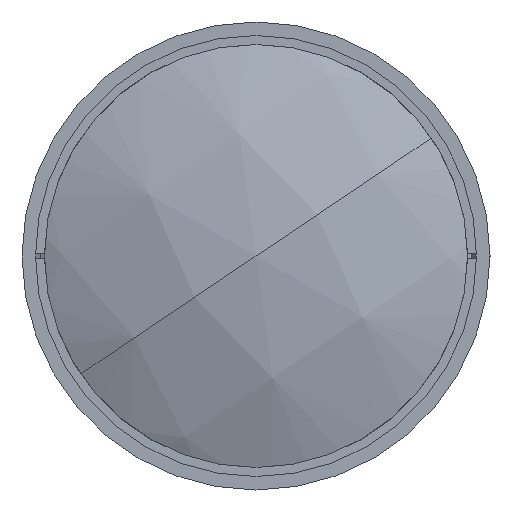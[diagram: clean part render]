
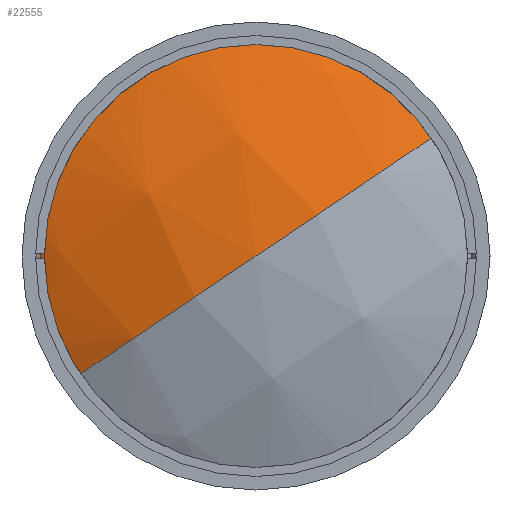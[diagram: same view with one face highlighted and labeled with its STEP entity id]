
A CAD part, left-side view. The second image highlights one B-rep face of the part: STEP entity #22555.
In plain terms, the highlighted spherical face has radius 114.92 mm.
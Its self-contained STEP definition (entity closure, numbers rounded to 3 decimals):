
#2043 = DIRECTION ( 'NONE',  ( 0., 0.558, 0.83 ) ) ;
#3655 = ORIENTED_EDGE ( 'NONE', *, *, #31165, .T. ) ;
#4973 = DIRECTION ( 'NONE',  ( 0., 0.558, 0.83 ) ) ;
#5576 = EDGE_CURVE ( 'NONE', #9829, #8128, #24771, .T. ) ;
#5714 = DIRECTION ( 'NONE',  ( 0., 0.83, -0.558 ) ) ;
#5777 = DIRECTION ( 'NONE',  ( 0., -0.558, -0.83 ) ) ;
#6552 = EDGE_CURVE ( 'NONE', #9829, #28678, #14089, .T. ) ;
#7548 = AXIS2_PLACEMENT_3D ( 'NONE', #19222, #4973, #21668 ) ;
#7801 = CARTESIAN_POINT ( 'NONE',  ( 12.504, -39.828, 26.79 ) ) ;
#8128 = VERTEX_POINT ( 'NONE', #12970 ) ;
#9829 = VERTEX_POINT ( 'NONE', #7801 ) ;
#11219 = AXIS2_PLACEMENT_3D ( 'NONE', #11742, #28669, #14135 ) ;
#11635 = AXIS2_PLACEMENT_3D ( 'NONE', #28328, #2043, #18673 ) ;
#11742 = CARTESIAN_POINT ( 'NONE',  ( 12.504, 0., 0. ) ) ;
#12409 = EDGE_LOOP ( 'NONE', ( #23408, #3655, #15949 ) ) ;
#12970 = CARTESIAN_POINT ( 'NONE',  ( 2., 0., 0. ) ) ;
#14089 = CIRCLE ( 'NONE', #11219, 48. ) ;
#14135 = DIRECTION ( 'NONE',  ( 0., 0.558, 0.83 ) ) ;
#14282 = CARTESIAN_POINT ( 'NONE',  ( 116.92, 0., 0. ) ) ;
#14920 = FACE_OUTER_BOUND ( 'NONE', #12409, .T. ) ;
#15949 = ORIENTED_EDGE ( 'NONE', *, *, #5576, .F. ) ;
#18673 = DIRECTION ( 'NONE',  ( 0., -0.83, 0.558 ) ) ;
#19222 = CARTESIAN_POINT ( 'NONE',  ( 116.92, 0., 0. ) ) ;
#20892 = CIRCLE ( 'NONE', #7548, 114.92 ) ;
#21668 = DIRECTION ( 'NONE',  ( 0., -0.83, 0.558 ) ) ;
#22555 = ADVANCED_FACE ( 'NONE', ( #14920 ), #27077, .T. ) ;
#23408 = ORIENTED_EDGE ( 'NONE', *, *, #6552, .T. ) ;
#24771 = CIRCLE ( 'NONE', #25385, 114.92 ) ;
#25385 = AXIS2_PLACEMENT_3D ( 'NONE', #14282, #5777, #5714 ) ;
#27077 = SPHERICAL_SURFACE ( 'NONE', #11635, 114.92 ) ;
#28328 = CARTESIAN_POINT ( 'NONE',  ( 116.92, 0., 0. ) ) ;
#28669 = DIRECTION ( 'NONE',  ( -1., 0., 0. ) ) ;
#28678 = VERTEX_POINT ( 'NONE', #29598 ) ;
#29598 = CARTESIAN_POINT ( 'NONE',  ( 12.504, 39.828, -26.79 ) ) ;
#31165 = EDGE_CURVE ( 'NONE', #28678, #8128, #20892, .T. ) ;
